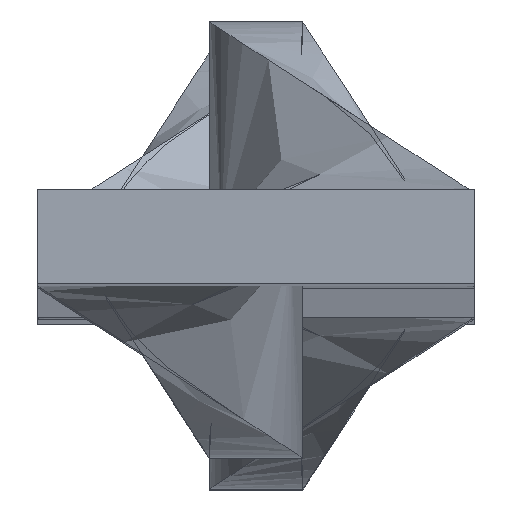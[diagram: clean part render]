
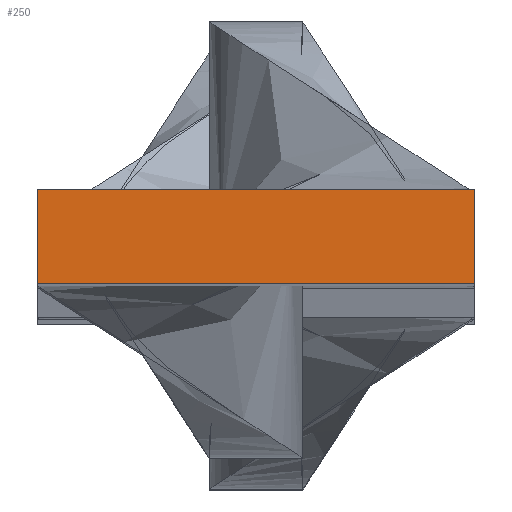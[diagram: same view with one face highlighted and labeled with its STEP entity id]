
A CAD part, top view. The second image highlights one B-rep face of the part: STEP entity #250.
In plain terms, the highlighted planar face has unit normal (0, 0, 1).
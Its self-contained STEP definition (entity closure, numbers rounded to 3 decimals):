
#5 = VERTEX_POINT ( 'NONE', #575 ) ;
#60 = CARTESIAN_POINT ( 'NONE',  ( -7., -1.5, 758.5 ) ) ;
#89 = ORIENTED_EDGE ( 'NONE', *, *, #571, .F. ) ;
#155 = FACE_OUTER_BOUND ( 'NONE', #178, .T. ) ;
#178 = EDGE_LOOP ( 'NONE', ( #1470, #699, #89, #634 ) ) ;
#193 = VECTOR ( 'NONE', #1020, 1000. ) ;
#207 = VECTOR ( 'NONE', #1364, 1000. ) ;
#250 = ADVANCED_FACE ( 'NONE', ( #155 ), #985, .F. ) ;
#257 = EDGE_CURVE ( 'NONE', #510, #555, #550, .T. ) ;
#347 = DIRECTION ( 'NONE',  ( 0., 1., 0. ) ) ;
#403 = CARTESIAN_POINT ( 'NONE',  ( -7., -1.5, 758.5 ) ) ;
#510 = VERTEX_POINT ( 'NONE', #1485 ) ;
#550 = LINE ( 'NONE', #1017, #193 ) ;
#555 = VERTEX_POINT ( 'NONE', #960 ) ;
#571 = EDGE_CURVE ( 'NONE', #555, #5, #1005, .T. ) ;
#575 = CARTESIAN_POINT ( 'NONE',  ( 7., -1.5, 758.5 ) ) ;
#608 = VERTEX_POINT ( 'NONE', #60 ) ;
#634 = ORIENTED_EDGE ( 'NONE', *, *, #257, .F. ) ;
#649 = VECTOR ( 'NONE', #711, 1000. ) ;
#694 = LINE ( 'NONE', #1369, #207 ) ;
#699 = ORIENTED_EDGE ( 'NONE', *, *, #1046, .F. ) ;
#711 = DIRECTION ( 'NONE',  ( 0., -1., 0. ) ) ;
#881 = AXIS2_PLACEMENT_3D ( 'NONE', #999, #1002, #1004 ) ;
#913 = VECTOR ( 'NONE', #347, 1000. ) ;
#960 = CARTESIAN_POINT ( 'NONE',  ( 7., 1.5, 758.5 ) ) ;
#985 = PLANE ( 'NONE',  #881 ) ;
#999 = CARTESIAN_POINT ( 'NONE',  ( 0., 0., 758.5 ) ) ;
#1002 = DIRECTION ( 'NONE',  ( 0., 0., -1. ) ) ;
#1004 = DIRECTION ( 'NONE',  ( -1., 0., 0. ) ) ;
#1005 = LINE ( 'NONE', #1115, #649 ) ;
#1017 = CARTESIAN_POINT ( 'NONE',  ( -7., 1.5, 758.5 ) ) ;
#1020 = DIRECTION ( 'NONE',  ( 1., 0., 0. ) ) ;
#1046 = EDGE_CURVE ( 'NONE', #5, #608, #694, .T. ) ;
#1060 = LINE ( 'NONE', #403, #913 ) ;
#1115 = CARTESIAN_POINT ( 'NONE',  ( 7., 1.5, 758.5 ) ) ;
#1364 = DIRECTION ( 'NONE',  ( -1., 0., 0. ) ) ;
#1369 = CARTESIAN_POINT ( 'NONE',  ( 7., -1.5, 758.5 ) ) ;
#1411 = EDGE_CURVE ( 'NONE', #608, #510, #1060, .T. ) ;
#1470 = ORIENTED_EDGE ( 'NONE', *, *, #1411, .F. ) ;
#1485 = CARTESIAN_POINT ( 'NONE',  ( -7., 1.5, 758.5 ) ) ;
